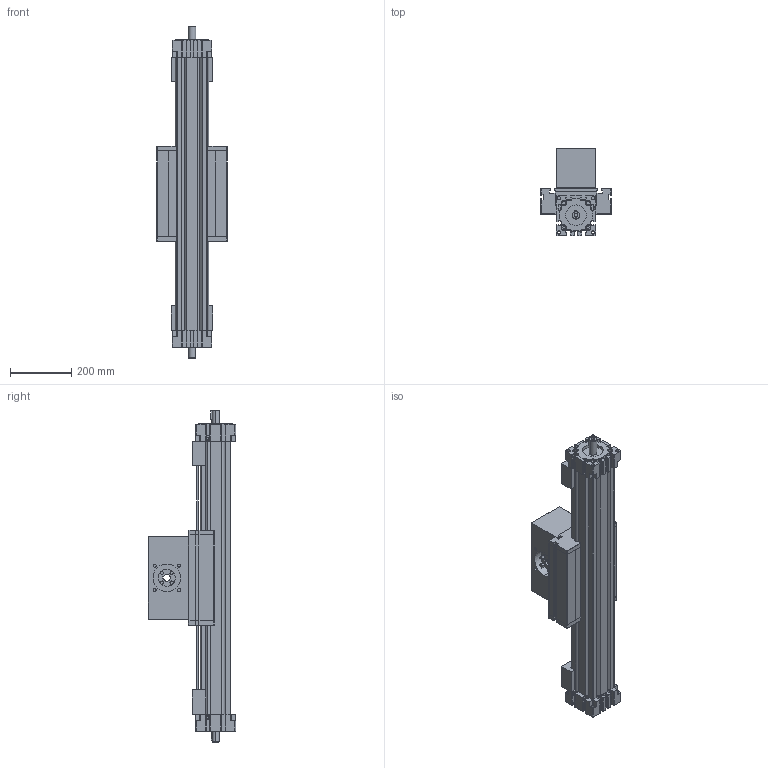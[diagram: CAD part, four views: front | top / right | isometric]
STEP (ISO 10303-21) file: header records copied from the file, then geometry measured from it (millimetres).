
FILE_DESCRIPTION (( 'STEP AP214' ), '1' );
FILE_NAME ('ELSD100.STEP', '2022-07-21T11:19:49', ( '' ), ( '' ), 'SwSTEP 2.0', 'SolidWorks 2020', '' );
FILE_SCHEMA (( 'AUTOMOTIVE_DESIGN' ));
Length unit declared in the file: millimetre
Products named in the file (6): ELSD100; timing belt reverse unit^ELSD100_coupling claw pos.2; load block^ELSD100_standard; profile^ELSD100_2x guide rods; carriage^ELSD100_carriage version 0; drive block^ELSD100_standard
Assembly tree (5 placements, depth 2):
  ELSD100
    profile^ELSD100_2x guide rods
    carriage^ELSD100_carriage version 0
    timing belt reverse unit^ELSD100_coupling claw pos.2
    load block^ELSD100_standard
    drive block^ELSD100_standard
Bounding box: 230 x 284 x 1082 mm (x, y, z)
Volume: 16268646.1 mm3; surface area: 1658597.6 mm2
Topology: 12 solids, 12 shells, 1044 faces, 2857 edges, 1875 vertices
Faces by surface type: plane 687, cylinder 310, cone 35, torus 8, sphere 4
Entity records: 36308 total; most frequent: CARTESIAN_POINT 6032, ORIENTED_EDGE 5706, DIRECTION 5600, EDGE_CURVE 2853, LINE 2146, VECTOR 2146, VERTEX_POINT 1875, AXIS2_PLACEMENT_3D 1727
